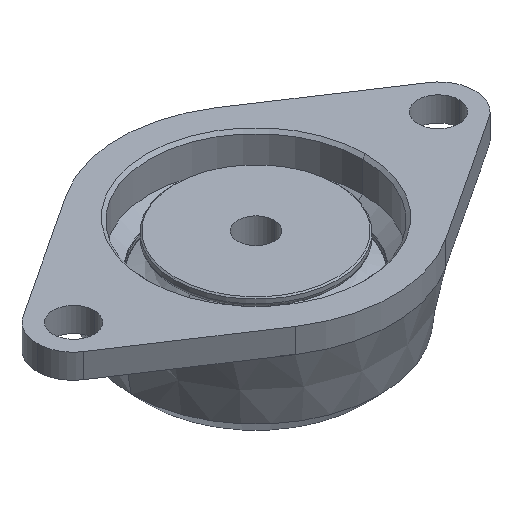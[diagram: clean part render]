
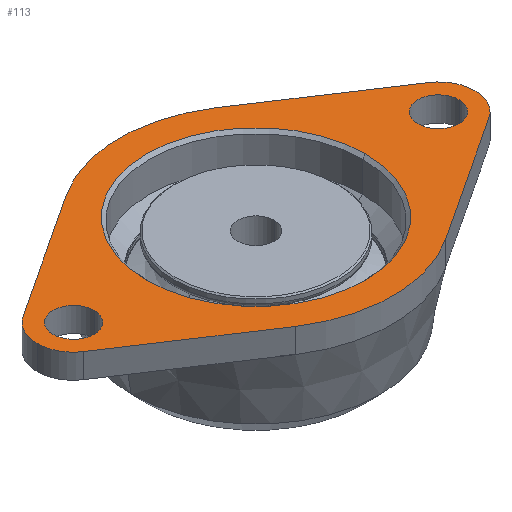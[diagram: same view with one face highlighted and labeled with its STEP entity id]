
A CAD part, isometric view. The second image highlights one B-rep face of the part: STEP entity #113.
In plain terms, the highlighted planar face has unit normal (0, 0, 1).
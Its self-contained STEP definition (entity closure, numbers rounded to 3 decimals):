
#113=ADVANCED_FACE('',(#266,#267,#268,#269),#270,.T.);
#266=FACE_BOUND('',#439,.T.);
#267=FACE_BOUND('',#440,.T.);
#268=FACE_BOUND('',#441,.T.);
#269=FACE_OUTER_BOUND('',#442,.T.);
#270=PLANE('',#443);
#439=EDGE_LOOP('',(#954,#955));
#440=EDGE_LOOP('',(#956,#957));
#441=EDGE_LOOP('',(#958,#959));
#442=EDGE_LOOP('',(#960,#961,#962,#963,#964,#965,#966,#967,#968,#969));
#443=AXIS2_PLACEMENT_3D('',#970,#971,#972);
#954=ORIENTED_EDGE('',*,*,#1233,.T.);
#955=ORIENTED_EDGE('',*,*,#1120,.T.);
#956=ORIENTED_EDGE('',*,*,#1232,.T.);
#957=ORIENTED_EDGE('',*,*,#1124,.T.);
#958=ORIENTED_EDGE('',*,*,#1234,.F.);
#959=ORIENTED_EDGE('',*,*,#1109,.F.);
#960=ORIENTED_EDGE('',*,*,#1231,.T.);
#961=ORIENTED_EDGE('',*,*,#1229,.T.);
#962=ORIENTED_EDGE('',*,*,#1126,.T.);
#963=ORIENTED_EDGE('',*,*,#1228,.T.);
#964=ORIENTED_EDGE('',*,*,#1226,.T.);
#965=ORIENTED_EDGE('',*,*,#1224,.T.);
#966=ORIENTED_EDGE('',*,*,#1222,.T.);
#967=ORIENTED_EDGE('',*,*,#1220,.T.);
#968=ORIENTED_EDGE('',*,*,#1132,.T.);
#969=ORIENTED_EDGE('',*,*,#1219,.T.);
#970=CARTESIAN_POINT('',(20.25,0.0,0.));
#971=DIRECTION('',(0.,0.0,1.0));
#972=DIRECTION('',(1.0,0.0,0.));
#1109=EDGE_CURVE('',#1343,#1341,#1345,.T.);
#1120=EDGE_CURVE('',#1358,#1362,#1364,.T.);
#1124=EDGE_CURVE('',#1366,#1370,#1372,.T.);
#1126=EDGE_CURVE('',#1376,#1373,#1377,.T.);
#1132=EDGE_CURVE('',#1382,#1386,#1388,.T.);
#1219=EDGE_CURVE('',#1386,#1520,#1522,.T.);
#1220=EDGE_CURVE('',#1523,#1382,#1524,.T.);
#1222=EDGE_CURVE('',#1526,#1523,#1527,.T.);
#1224=EDGE_CURVE('',#1529,#1526,#1530,.T.);
#1226=EDGE_CURVE('',#1532,#1529,#1533,.T.);
#1228=EDGE_CURVE('',#1373,#1532,#1535,.T.);
#1229=EDGE_CURVE('',#1536,#1376,#1537,.T.);
#1231=EDGE_CURVE('',#1520,#1536,#1539,.T.);
#1232=EDGE_CURVE('',#1370,#1366,#1540,.T.);
#1233=EDGE_CURVE('',#1362,#1358,#1541,.T.);
#1234=EDGE_CURVE('',#1341,#1343,#1542,.T.);
#1341=VERTEX_POINT('',#1631);
#1343=VERTEX_POINT('',#1634);
#1345=CIRCLE('',#1637,18.);
#1358=VERTEX_POINT('',#1652);
#1362=VERTEX_POINT('',#1657);
#1364=CIRCLE('',#1660,3.4);
#1366=VERTEX_POINT('',#1662);
#1370=VERTEX_POINT('',#1667);
#1372=CIRCLE('',#1670,3.4);
#1373=VERTEX_POINT('',#1671);
#1376=VERTEX_POINT('',#1675);
#1377=CIRCLE('',#1676,6.);
#1382=VERTEX_POINT('',#1682);
#1386=VERTEX_POINT('',#1687);
#1388=CIRCLE('',#1690,6.);
#1520=VERTEX_POINT('',#1844);
#1522=LINE('',#1847,#1848);
#1523=VERTEX_POINT('',#1849);
#1524=CIRCLE('',#1850,6.);
#1526=VERTEX_POINT('',#1853);
#1527=LINE('',#1854,#1855);
#1529=VERTEX_POINT('',#1858);
#1530=CIRCLE('',#1859,22.5);
#1532=VERTEX_POINT('',#1862);
#1533=LINE('',#1863,#1864);
#1535=CIRCLE('',#1867,6.);
#1536=VERTEX_POINT('',#1868);
#1537=LINE('',#1869,#1870);
#1539=CIRCLE('',#1873,22.5);
#1540=CIRCLE('',#1874,3.4);
#1541=CIRCLE('',#1875,3.4);
#1542=CIRCLE('',#1876,18.);
#1631=CARTESIAN_POINT('',(18.,0.0,0.));
#1634=CARTESIAN_POINT('',(-18.,0.,0.));
#1637=AXIS2_PLACEMENT_3D('',#1991,#1992,#1993);
#1652=CARTESIAN_POINT('',(-26.6,0.,0.0));
#1657=CARTESIAN_POINT('',(-33.4,0.0,0.0));
#1660=AXIS2_PLACEMENT_3D('',#2016,#2017,#2018);
#1662=CARTESIAN_POINT('',(33.4,0.,0.0));
#1667=CARTESIAN_POINT('',(26.6,0.0,0.0));
#1670=AXIS2_PLACEMENT_3D('',#2024,#2025,#2026);
#1671=CARTESIAN_POINT('',(36.,0.,0.0));
#1675=CARTESIAN_POINT('',(33.3,-5.011,0.0));
#1676=AXIS2_PLACEMENT_3D('',#2028,#2029,#2030);
#1682=CARTESIAN_POINT('',(-36.,0.,0.0));
#1687=CARTESIAN_POINT('',(-33.3,-5.011,0.0));
#1690=AXIS2_PLACEMENT_3D('',#2040,#2041,#2042);
#1844=CARTESIAN_POINT('',(-12.375,-18.791,0.0));
#1847=CARTESIAN_POINT('',(-33.3,-5.011,0.0));
#1848=VECTOR('',#2255,1.);
#1849=CARTESIAN_POINT('',(-33.3,5.011,0.0));
#1850=AXIS2_PLACEMENT_3D('',#2256,#2257,#2258);
#1853=CARTESIAN_POINT('',(-12.375,18.791,0.0));
#1854=CARTESIAN_POINT('',(-12.375,18.791,0.0));
#1855=VECTOR('',#2260,1.);
#1858=CARTESIAN_POINT('',(12.375,18.791,0.0));
#1859=AXIS2_PLACEMENT_3D('',#2262,#2263,#2264);
#1862=CARTESIAN_POINT('',(33.3,5.011,0.0));
#1863=CARTESIAN_POINT('',(33.3,5.011,0.0));
#1864=VECTOR('',#2266,1.);
#1867=AXIS2_PLACEMENT_3D('',#2268,#2269,#2270);
#1868=CARTESIAN_POINT('',(12.375,-18.791,0.0));
#1869=CARTESIAN_POINT('',(12.375,-18.791,0.0));
#1870=VECTOR('',#2271,1.);
#1873=AXIS2_PLACEMENT_3D('',#2273,#2274,#2275);
#1874=AXIS2_PLACEMENT_3D('',#2276,#2277,#2278);
#1875=AXIS2_PLACEMENT_3D('',#2279,#2280,#2281);
#1876=AXIS2_PLACEMENT_3D('',#2282,#2283,#2284);
#1991=CARTESIAN_POINT('',(0.,0.0,0.));
#1992=DIRECTION('',(0.0,0.0,1.0));
#1993=DIRECTION('',(1.0,0.0,0.0));
#2016=CARTESIAN_POINT('',(-30.,0.0,0.0));
#2017=DIRECTION('',(0.0,0.0,-1.0));
#2018=DIRECTION('',(1.0,0.0,0.0));
#2024=CARTESIAN_POINT('',(30.,0.0,0.0));
#2025=DIRECTION('',(0.0,0.0,-1.0));
#2026=DIRECTION('',(1.0,0.0,0.0));
#2028=CARTESIAN_POINT('',(30.,0.,0.0));
#2029=DIRECTION('',(0.0,0.0,1.0));
#2030=DIRECTION('',(1.0,0.0,0.0));
#2040=CARTESIAN_POINT('',(-30.,0.0,0.0));
#2041=DIRECTION('',(0.0,0.0,1.0));
#2042=DIRECTION('',(1.0,0.0,0.0));
#2255=DIRECTION('',(0.835,-0.55,0.0));
#2256=CARTESIAN_POINT('',(-30.,0.0,0.0));
#2257=DIRECTION('',(0.0,0.0,1.0));
#2258=DIRECTION('',(1.0,0.0,0.0));
#2260=DIRECTION('',(-0.835,-0.55,0.0));
#2262=CARTESIAN_POINT('',(0.,0.0,0.));
#2263=DIRECTION('',(0.0,0.0,1.0));
#2264=DIRECTION('',(1.0,0.0,0.0));
#2266=DIRECTION('',(-0.835,0.55,0.0));
#2268=CARTESIAN_POINT('',(30.,0.,0.0));
#2269=DIRECTION('',(0.0,0.0,1.0));
#2270=DIRECTION('',(1.0,0.0,0.0));
#2271=DIRECTION('',(0.835,0.55,0.0));
#2273=CARTESIAN_POINT('',(0.,0.0,0.));
#2274=DIRECTION('',(0.0,0.0,1.0));
#2275=DIRECTION('',(1.0,0.0,0.0));
#2276=CARTESIAN_POINT('',(30.,0.0,0.0));
#2277=DIRECTION('',(0.0,0.0,-1.0));
#2278=DIRECTION('',(1.0,0.0,0.0));
#2279=CARTESIAN_POINT('',(-30.,0.0,0.0));
#2280=DIRECTION('',(0.0,0.0,-1.0));
#2281=DIRECTION('',(1.0,0.0,0.0));
#2282=CARTESIAN_POINT('',(0.,0.0,0.));
#2283=DIRECTION('',(0.0,0.0,1.0));
#2284=DIRECTION('',(1.0,0.0,0.0));
